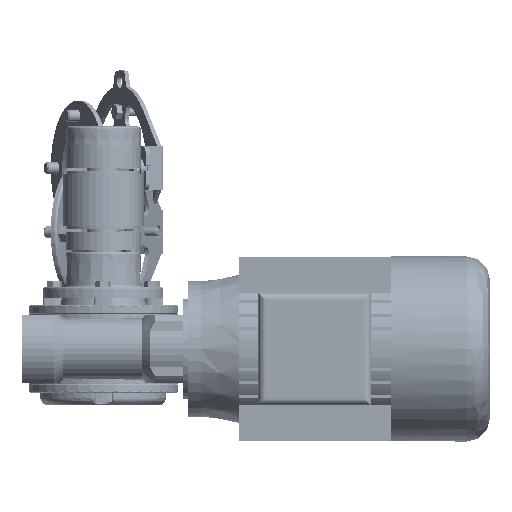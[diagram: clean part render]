
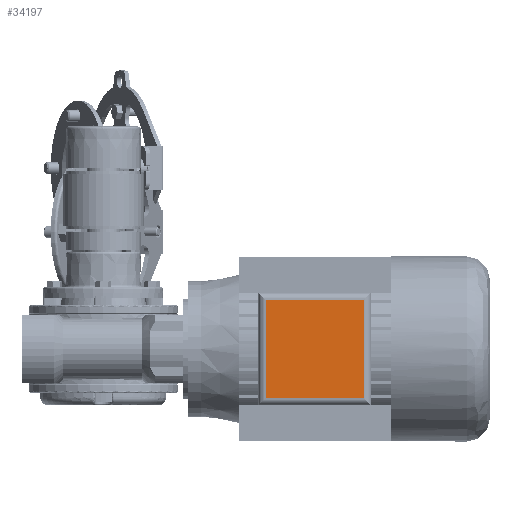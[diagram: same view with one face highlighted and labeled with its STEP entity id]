
A CAD part, left-side view. The second image highlights one B-rep face of the part: STEP entity #34197.
In plain terms, the highlighted planar face has unit normal (-1, 0, 0) as drawn and (0, 1, 0) by its records, which use the part's own axes.
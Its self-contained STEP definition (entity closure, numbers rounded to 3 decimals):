
#8019 = LINE ( 'NONE', #63342, #33067 ) ;
#15057 = LINE ( 'NONE', #25556, #76409 ) ;
#17168 = EDGE_CURVE ( 'NONE', #47794, #77158, #8019, .T. ) ;
#17913 = VERTEX_POINT ( 'NONE', #97909 ) ;
#19865 = DIRECTION ( 'NONE',  ( 0., 0., -1. ) ) ;
#20750 = ORIENTED_EDGE ( 'NONE', *, *, #72265, .F. ) ;
#23165 = LINE ( 'NONE', #82604, #70681 ) ;
#24556 = DIRECTION ( 'NONE',  ( 1., 0., 0. ) ) ;
#24809 = PLANE ( 'NONE',  #72862 ) ;
#25556 = CARTESIAN_POINT ( 'NONE',  ( -32.5, 110., 125.1 ) ) ;
#29368 = CARTESIAN_POINT ( 'NONE',  ( -32.5, 110., 120.1 ) ) ;
#32834 = CARTESIAN_POINT ( 'NONE',  ( 37.5, 110., 125.1 ) ) ;
#33067 = VECTOR ( 'NONE', #24556, 1000. ) ;
#34197 = ADVANCED_FACE ( 'NONE', ( #93795 ), #24809, .F. ) ;
#39989 = CARTESIAN_POINT ( 'NONE',  ( 32.5, 110., 55.1 ) ) ;
#40930 = DIRECTION ( 'NONE',  ( 1., 0., 0. ) ) ;
#47431 = VECTOR ( 'NONE', #47858, 1000. ) ;
#47794 = VERTEX_POINT ( 'NONE', #53937 ) ;
#47858 = DIRECTION ( 'NONE',  ( 0., 0., 1. ) ) ;
#52754 = EDGE_LOOP ( 'NONE', ( #79182, #20750, #68109, #77258 ) ) ;
#53937 = CARTESIAN_POINT ( 'NONE',  ( -32.5, 110., 55.1 ) ) ;
#54498 = EDGE_CURVE ( 'NONE', #77158, #17913, #54917, .T. ) ;
#54899 = EDGE_CURVE ( 'NONE', #66366, #47794, #15057, .T. ) ;
#54917 = LINE ( 'NONE', #61969, #47431 ) ;
#61969 = CARTESIAN_POINT ( 'NONE',  ( 32.5, 110., 50.1 ) ) ;
#63342 = CARTESIAN_POINT ( 'NONE',  ( 37.5, 110., 55.1 ) ) ;
#66366 = VERTEX_POINT ( 'NONE', #29368 ) ;
#68109 = ORIENTED_EDGE ( 'NONE', *, *, #54498, .F. ) ;
#70681 = VECTOR ( 'NONE', #83607, 1000. ) ;
#72265 = EDGE_CURVE ( 'NONE', #17913, #66366, #23165, .T. ) ;
#72862 = AXIS2_PLACEMENT_3D ( 'NONE', #32834, #94279, #40930 ) ;
#76409 = VECTOR ( 'NONE', #19865, 1000. ) ;
#77158 = VERTEX_POINT ( 'NONE', #39989 ) ;
#77258 = ORIENTED_EDGE ( 'NONE', *, *, #17168, .F. ) ;
#79182 = ORIENTED_EDGE ( 'NONE', *, *, #54899, .F. ) ;
#82604 = CARTESIAN_POINT ( 'NONE',  ( 37.5, 110., 120.1 ) ) ;
#83607 = DIRECTION ( 'NONE',  ( -1., 0., 0. ) ) ;
#93795 = FACE_OUTER_BOUND ( 'NONE', #52754, .T. ) ;
#94279 = DIRECTION ( 'NONE',  ( 0., -1., 0. ) ) ;
#97909 = CARTESIAN_POINT ( 'NONE',  ( 32.5, 110., 120.1 ) ) ;
